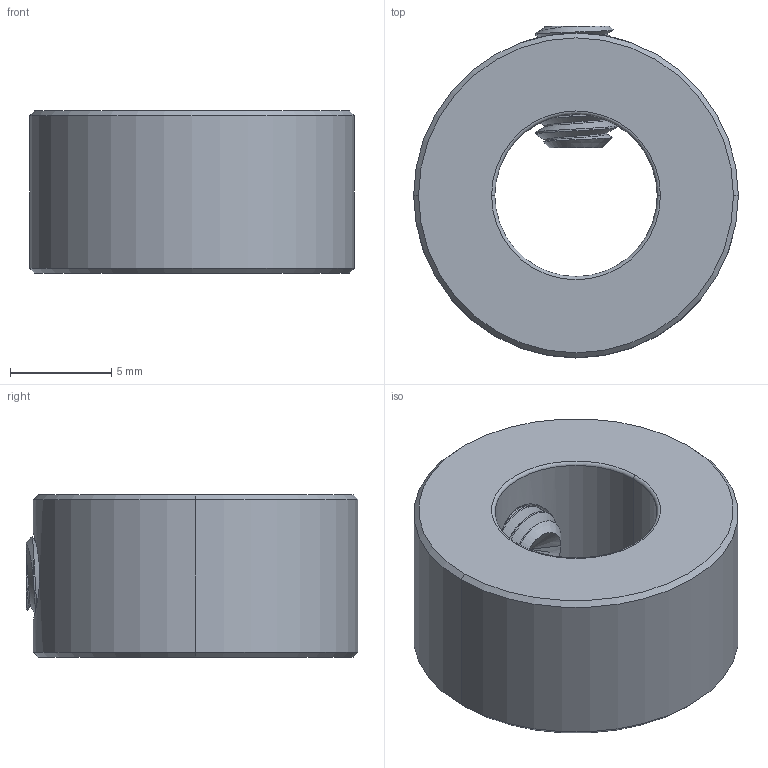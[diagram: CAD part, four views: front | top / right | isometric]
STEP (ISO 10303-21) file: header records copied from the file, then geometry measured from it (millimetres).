
FILE_DESCRIPTION (( 'STEP AP203' ), '1' );
FILE_NAME ('6056N16_Carbon Steel Set Screw Collar.STEP', '2021-11-17T16:04:27', ( 'Administrator' ), ( 'Managed by Terraform' ), 'SwSTEP 2.0', 'SolidWorks 2017', '' );
FILE_SCHEMA (( 'CONFIG_CONTROL_DESIGN' ));
Length unit declared in the file: millimetre
Products named in the file (1): 6056N16_Carbon Steel Set Screw Collar
Bounding box: 16 x 16.35 x 8 mm (x, y, z)
Volume: 1203.3 mm3; surface area: 1049.6 mm2
Topology: 2 solids, 2 shells, 61 faces, 145 edges, 87 vertices
Faces by surface type: cylinder 22, cone 18, plane 10, bspline 7, torus 4
Entity records: 4643 total; most frequent: CARTESIAN_POINT 3323, ORIENTED_EDGE 286, DIRECTION 226, EDGE_CURVE 143, AXIS2_PLACEMENT_3D 91, VERTEX_POINT 87, EDGE_LOOP 66, FACE_OUTER_BOUND 61
